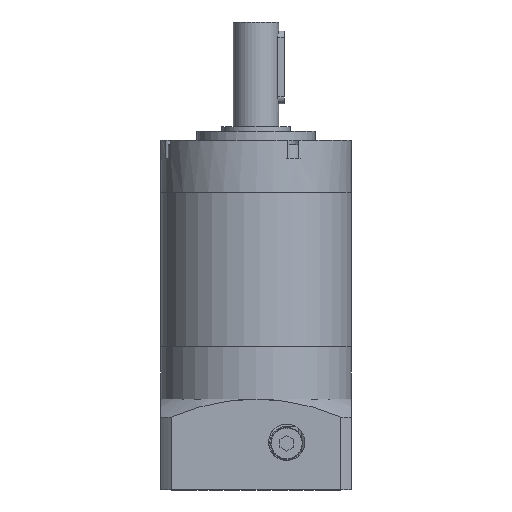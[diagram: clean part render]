
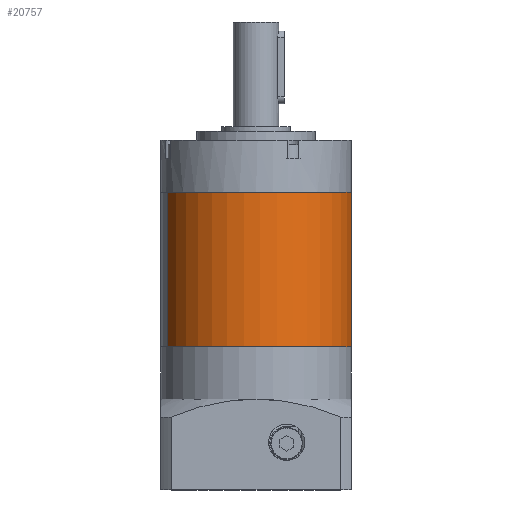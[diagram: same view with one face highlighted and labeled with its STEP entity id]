
A CAD part, front view. The second image highlights one B-rep face of the part: STEP entity #20757.
In plain terms, the highlighted cylindrical face has radius 21 mm (diameter 42 mm), a partial arc.
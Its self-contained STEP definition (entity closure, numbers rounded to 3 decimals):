
#278 = DIRECTION ( 'NONE',  ( 0., 0., 1. ) ) ;
#1520 = CARTESIAN_POINT ( 'NONE',  ( 0., 0., 17. ) ) ;
#1775 = LINE ( 'NONE', #18996, #6421 ) ;
#2344 = VERTEX_POINT ( 'NONE', #4722 ) ;
#3256 = EDGE_LOOP ( 'NONE', ( #22177, #16288, #8101, #8863 ) ) ;
#3299 = CARTESIAN_POINT ( 'NONE',  ( 21., 0., 17. ) ) ;
#4722 = CARTESIAN_POINT ( 'NONE',  ( -21., 0., -17. ) ) ;
#6421 = VECTOR ( 'NONE', #20942, 1000. ) ;
#6576 = VERTEX_POINT ( 'NONE', #21229 ) ;
#7965 = LINE ( 'NONE', #18710, #17827 ) ;
#8101 = ORIENTED_EDGE ( 'NONE', *, *, #14589, .T. ) ;
#8214 = CIRCLE ( 'NONE', #15039, 21. ) ;
#8863 = ORIENTED_EDGE ( 'NONE', *, *, #21669, .F. ) ;
#9257 = CARTESIAN_POINT ( 'NONE',  ( 0., 0., 17. ) ) ;
#11213 = DIRECTION ( 'NONE',  ( -1., 0., 0. ) ) ;
#12051 = CARTESIAN_POINT ( 'NONE',  ( 0., 0., -17. ) ) ;
#12956 = CYLINDRICAL_SURFACE ( 'NONE', #21667, 21. ) ;
#13235 = CIRCLE ( 'NONE', #14731, 21. ) ;
#13363 = CARTESIAN_POINT ( 'NONE',  ( 21., 0., -17. ) ) ;
#13396 = DIRECTION ( 'NONE',  ( 0., 0., -1. ) ) ;
#14041 = DIRECTION ( 'NONE',  ( -1., 0., 0. ) ) ;
#14589 = EDGE_CURVE ( 'NONE', #21331, #2344, #8214, .T. ) ;
#14731 = AXIS2_PLACEMENT_3D ( 'NONE', #9257, #22944, #11213 ) ;
#15039 = AXIS2_PLACEMENT_3D ( 'NONE', #12051, #278, #14041 ) ;
#16006 = VERTEX_POINT ( 'NONE', #3299 ) ;
#16288 = ORIENTED_EDGE ( 'NONE', *, *, #17962, .T. ) ;
#16750 = DIRECTION ( 'NONE',  ( 0., 0., -1. ) ) ;
#16931 = EDGE_CURVE ( 'NONE', #6576, #16006, #13235, .T. ) ;
#17827 = VECTOR ( 'NONE', #16750, 1000. ) ;
#17962 = EDGE_CURVE ( 'NONE', #16006, #21331, #1775, .T. ) ;
#18710 = CARTESIAN_POINT ( 'NONE',  ( -21., 0., 17. ) ) ;
#18996 = CARTESIAN_POINT ( 'NONE',  ( 21., 0., 17. ) ) ;
#20757 = ADVANCED_FACE ( 'NONE', ( #25224 ), #12956, .T. ) ;
#20942 = DIRECTION ( 'NONE',  ( 0., 0., -1. ) ) ;
#21229 = CARTESIAN_POINT ( 'NONE',  ( -21., 0., 17. ) ) ;
#21326 = DIRECTION ( 'NONE',  ( -1., 0., 0. ) ) ;
#21331 = VERTEX_POINT ( 'NONE', #13363 ) ;
#21667 = AXIS2_PLACEMENT_3D ( 'NONE', #1520, #13396, #21326 ) ;
#21669 = EDGE_CURVE ( 'NONE', #6576, #2344, #7965, .T. ) ;
#22177 = ORIENTED_EDGE ( 'NONE', *, *, #16931, .T. ) ;
#22944 = DIRECTION ( 'NONE',  ( 0., 0., -1. ) ) ;
#25224 = FACE_OUTER_BOUND ( 'NONE', #3256, .T. ) ;
